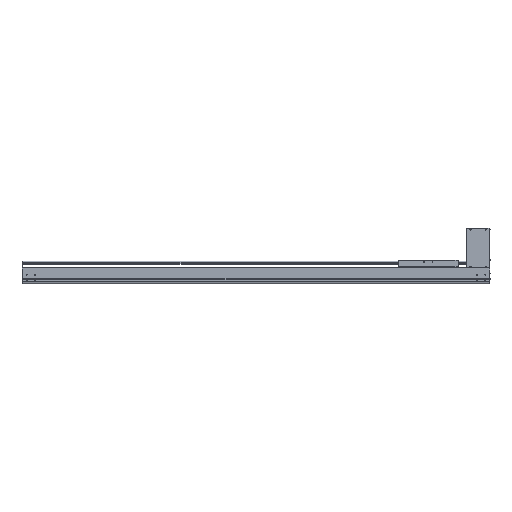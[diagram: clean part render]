
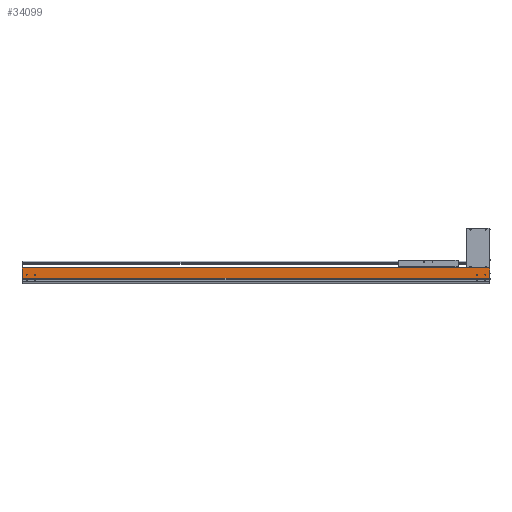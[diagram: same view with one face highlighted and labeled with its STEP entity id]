
A CAD part, top view. The second image highlights one B-rep face of the part: STEP entity #34099.
In plain terms, the highlighted planar face has unit normal (0, 0, 1).
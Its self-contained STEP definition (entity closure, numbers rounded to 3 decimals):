
#9040=DIRECTION('',(-1.,-0.006,-0.017));
#9041=VECTOR('',#9040,1.5);
#9042=CARTESIAN_POINT('',(1.5,94.,107.));
#9043=LINE('',#9042,#9041);
#9044=DIRECTION('',(-1.,0.,0.));
#9045=VECTOR('',#9044,2748.5);
#9046=CARTESIAN_POINT('',(0.,93.5,107.));
#9047=LINE('',#9046,#9045);
#9082=CARTESIAN_POINT('',(0.,93.992,106.974));
#9083=CARTESIAN_POINT('',(0.,93.906,
106.974));
#9084=CARTESIAN_POINT('',(0.,93.75,
107.013));
#9085=CARTESIAN_POINT('',(0.,93.581,107.));
#9086=CARTESIAN_POINT('',(0.,93.5,107.));
#9088=CARTESIAN_POINT('',(-2723.5,54.,107.));
#9089=DIRECTION('',(0.,0.,-1.));
#9090=DIRECTION('',(1.,0.,0.));
#9091=AXIS2_PLACEMENT_3D('',#9088,#9089,#9090);
#9093=CARTESIAN_POINT('',(-2723.5,54.,107.));
#9094=DIRECTION('',(0.,0.,-1.));
#9095=DIRECTION('',(-1.,0.,0.));
#9096=AXIS2_PLACEMENT_3D('',#9093,#9094,#9095);
#9098=CARTESIAN_POINT('',(-2673.5,54.,107.));
#9099=DIRECTION('',(0.,0.,-1.));
#9100=DIRECTION('',(1.,0.,0.));
#9101=AXIS2_PLACEMENT_3D('',#9098,#9099,#9100);
#9103=CARTESIAN_POINT('',(-2673.5,54.,107.));
#9104=DIRECTION('',(0.,0.,-1.));
#9105=DIRECTION('',(-1.,0.,0.));
#9106=AXIS2_PLACEMENT_3D('',#9103,#9104,#9105);
#9108=CARTESIAN_POINT('',(-23.5,54.,107.));
#9109=DIRECTION('',(0.,0.,-1.));
#9110=DIRECTION('',(1.,0.,0.));
#9111=AXIS2_PLACEMENT_3D('',#9108,#9109,#9110);
#9113=CARTESIAN_POINT('',(-23.5,54.,107.));
#9114=DIRECTION('',(0.,0.,-1.));
#9115=DIRECTION('',(-1.,0.,0.));
#9116=AXIS2_PLACEMENT_3D('',#9113,#9114,#9115);
#9118=CARTESIAN_POINT('',(-73.5,54.,107.));
#9119=DIRECTION('',(0.,0.,-1.));
#9120=DIRECTION('',(1.,0.,0.));
#9121=AXIS2_PLACEMENT_3D('',#9118,#9119,#9120);
#9123=CARTESIAN_POINT('',(-73.5,54.,107.));
#9124=DIRECTION('',(0.,0.,-1.));
#9125=DIRECTION('',(-1.,0.,0.));
#9126=AXIS2_PLACEMENT_3D('',#9123,#9124,#9125);
#9128=DIRECTION('',(0.,-1.,0.));
#9129=VECTOR('',#9128,2.55);
#9130=CARTESIAN_POINT('',(-2746.5,34.65,107.));
#9131=LINE('',#9130,#9129);
#9132=DIRECTION('',(0.,-1.,0.));
#9133=VECTOR('',#9132,58.85);
#9134=CARTESIAN_POINT('',(-2748.5,93.5,107.));
#9135=LINE('',#9134,#9133);
#9136=DIRECTION('',(0.,1.,0.));
#9137=VECTOR('',#9136,58.35);
#9138=CARTESIAN_POINT('',(1.5,35.65,107.));
#9139=LINE('',#9138,#9137);
#9140=DIRECTION('',(0.,1.,0.));
#9141=VECTOR('',#9140,3.55);
#9142=CARTESIAN_POINT('',(0.,32.1,107.));
#9143=LINE('',#9142,#9141);
#9144=DIRECTION('',(1.,0.,0.));
#9145=VECTOR('',#9144,2746.5);
#9146=CARTESIAN_POINT('',(-2746.5,32.1,107.));
#9147=LINE('',#9146,#9145);
#9256=DIRECTION('',(1.,0.,0.));
#9257=VECTOR('',#9256,2.);
#9258=CARTESIAN_POINT('',(-2748.5,34.65,107.));
#9259=LINE('',#9258,#9257);
#9280=DIRECTION('',(1.,0.,0.));
#9281=VECTOR('',#9280,1.5);
#9282=CARTESIAN_POINT('',(0.,35.65,107.));
#9283=LINE('',#9282,#9281);
#18826=CARTESIAN_POINT('',(1.5,94.,107.));
#18827=VERTEX_POINT('',#18826);
#18828=CARTESIAN_POINT('',(1.5,35.65,107.));
#18829=VERTEX_POINT('',#18828);
#18898=CARTESIAN_POINT('',(-2748.5,34.65,107.));
#18899=VERTEX_POINT('',#18898);
#18900=CARTESIAN_POINT('',(-2748.5,93.5,107.));
#18901=VERTEX_POINT('',#18900);
#19126=CARTESIAN_POINT('',(-2746.5,32.1,107.));
#19127=VERTEX_POINT('',#19126);
#19177=CARTESIAN_POINT('',(0.,32.1,107.));
#19179=VERTEX_POINT('',#19177);
#19832=CARTESIAN_POINT('',(-2721.,54.,107.));
#19833=CARTESIAN_POINT('',(-2726.,54.,107.));
#19834=VERTEX_POINT('',#19832);
#19835=VERTEX_POINT('',#19833);
#19836=CARTESIAN_POINT('',(-2671.,54.,107.));
#19837=CARTESIAN_POINT('',(-2676.,54.,107.));
#19838=VERTEX_POINT('',#19836);
#19839=VERTEX_POINT('',#19837);
#19840=CARTESIAN_POINT('',(-21.,54.,107.));
#19841=CARTESIAN_POINT('',(-26.,54.,107.));
#19842=VERTEX_POINT('',#19840);
#19843=VERTEX_POINT('',#19841);
#19844=CARTESIAN_POINT('',(-71.,54.,107.));
#19845=CARTESIAN_POINT('',(-76.,54.,107.));
#19846=VERTEX_POINT('',#19844);
#19847=VERTEX_POINT('',#19845);
#22298=CARTESIAN_POINT('',(0.,35.65,107.));
#22299=VERTEX_POINT('',#22298);
#22300=CARTESIAN_POINT('',(0.,93.975,106.923));
#22302=VERTEX_POINT('',#22300);
#22445=VERTEX_POINT('',#9086);
#22901=CARTESIAN_POINT('',(-2746.5,34.65,107.));
#22902=VERTEX_POINT('',#22901);
#34055=CARTESIAN_POINT('',(-1373.25,62.8,107.));
#34056=DIRECTION('',(0.,0.,1.));
#34057=DIRECTION('',(0.,-1.,0.));
#34058=AXIS2_PLACEMENT_3D('',#34055,#34056,#34057);
#34059=PLANE('',#34058);
#34060=ORIENTED_EDGE('',*,*,#24730,.F.);
#34062=ORIENTED_EDGE('',*,*,#34061,.F.);
#34063=ORIENTED_EDGE('',*,*,#26980,.F.);
#34064=ORIENTED_EDGE('',*,*,#34039,.F.);
#34065=ORIENTED_EDGE('',*,*,#34050,.F.);
#34066=ORIENTED_EDGE('',*,*,#34029,.F.);
#34067=ORIENTED_EDGE('',*,*,#23658,.F.);
#34069=ORIENTED_EDGE('',*,*,#34068,.F.);
#34070=ORIENTED_EDGE('',*,*,#25487,.F.);
#34072=ORIENTED_EDGE('',*,*,#34071,.F.);
#34073=EDGE_LOOP('',(#34060,#34062,#34063,#34064,#34065,#34066,#34067,#34069,
#34070,#34072));
#34074=FACE_OUTER_BOUND('',#34073,.F.);
#34076=ORIENTED_EDGE('',*,*,#34075,.F.);
#34078=ORIENTED_EDGE('',*,*,#34077,.F.);
#34079=EDGE_LOOP('',(#34076,#34078));
#34080=FACE_BOUND('',#34079,.F.);
#34082=ORIENTED_EDGE('',*,*,#34081,.F.);
#34084=ORIENTED_EDGE('',*,*,#34083,.F.);
#34085=EDGE_LOOP('',(#34082,#34084));
#34086=FACE_BOUND('',#34085,.F.);
#34088=ORIENTED_EDGE('',*,*,#34087,.F.);
#34090=ORIENTED_EDGE('',*,*,#34089,.F.);
#34091=EDGE_LOOP('',(#34088,#34090));
#34092=FACE_BOUND('',#34091,.F.);
#34094=ORIENTED_EDGE('',*,*,#34093,.F.);
#34096=ORIENTED_EDGE('',*,*,#34095,.F.);
#34097=EDGE_LOOP('',(#34094,#34096));
#34098=FACE_BOUND('',#34097,.F.);
#34099=ADVANCED_FACE('',(#34074,#34080,#34086,#34092,#34098),#34059,.T.);
#9087=B_SPLINE_CURVE_WITH_KNOTS('',3,(#9082,#9083,#9084,#9085,#9086),
.UNSPECIFIED.,.F.,.F.,(4,1,4),(0.,0.5,1.),.UNSPECIFIED.);
#9092=CIRCLE('',#9091,2.5);
#9097=CIRCLE('',#9096,2.5);
#9102=CIRCLE('',#9101,2.5);
#9107=CIRCLE('',#9106,2.5);
#9112=CIRCLE('',#9111,2.5);
#9117=CIRCLE('',#9116,2.5);
#9122=CIRCLE('',#9121,2.5);
#9127=CIRCLE('',#9126,2.5);
#23658=EDGE_CURVE('',#18829,#18827,#9139,.T.);
#24730=EDGE_CURVE('',#22902,#19127,#9131,.T.);
#25487=EDGE_CURVE('',#19179,#22299,#9143,.T.);
#26980=EDGE_CURVE('',#18901,#18899,#9135,.T.);
#34029=EDGE_CURVE('',#18827,#22302,#9043,.T.);
#34039=EDGE_CURVE('',#22445,#18901,#9047,.T.);
#34050=EDGE_CURVE('',#22302,#22445,#9087,.T.);
#34061=EDGE_CURVE('',#18899,#22902,#9259,.T.);
#34068=EDGE_CURVE('',#22299,#18829,#9283,.T.);
#34071=EDGE_CURVE('',#19127,#19179,#9147,.T.);
#34075=EDGE_CURVE('',#19838,#19839,#9102,.T.);
#34077=EDGE_CURVE('',#19839,#19838,#9107,.T.);
#34081=EDGE_CURVE('',#19842,#19843,#9112,.T.);
#34083=EDGE_CURVE('',#19843,#19842,#9117,.T.);
#34087=EDGE_CURVE('',#19846,#19847,#9122,.T.);
#34089=EDGE_CURVE('',#19847,#19846,#9127,.T.);
#34093=EDGE_CURVE('',#19834,#19835,#9092,.T.);
#34095=EDGE_CURVE('',#19835,#19834,#9097,.T.);
